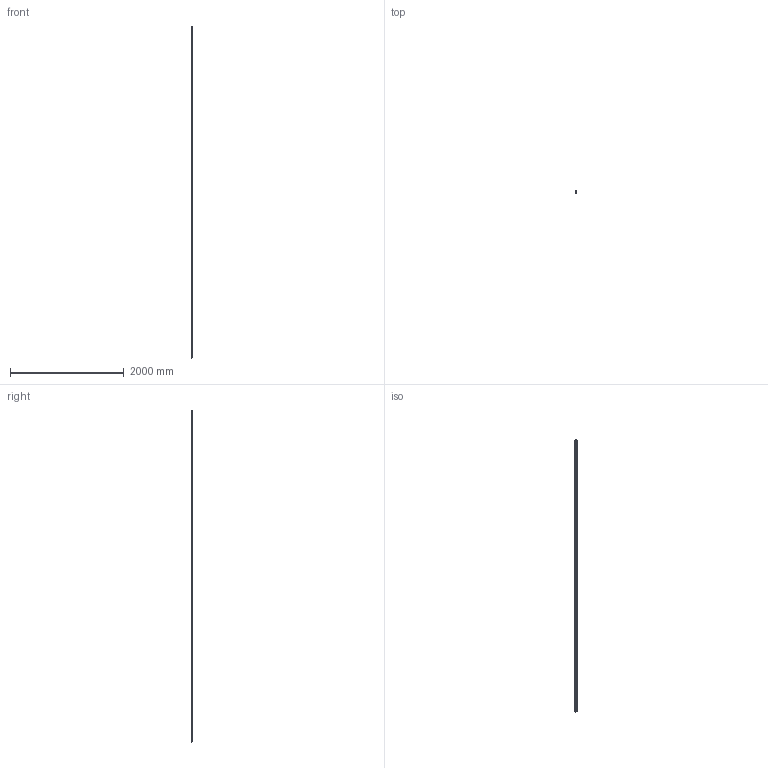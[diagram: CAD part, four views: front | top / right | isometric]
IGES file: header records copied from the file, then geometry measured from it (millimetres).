
Start section: 3D InterOp IGES (v. 2019 1.0.2), Spatial Corp. Copyright (c) 1999-2017.
Global section: file name: R1605.0_size35.igs; native system: Spatial Corp.; preprocessor: 3D InterOp GENERIC/IGES 3.0; author: Noname; organization: Noname; date: 20220629.163420; units: millimetre
Bounding box: 34 x 31.85 x 5836 mm (x, y, z)
Surface area: 893830.1 mm2 (no closed solid volume)
Topology: 0 solids, 0 shells, 735 faces, 2980 edges, 2980 vertices
Faces by surface type: revolution 450, extrusion 285
